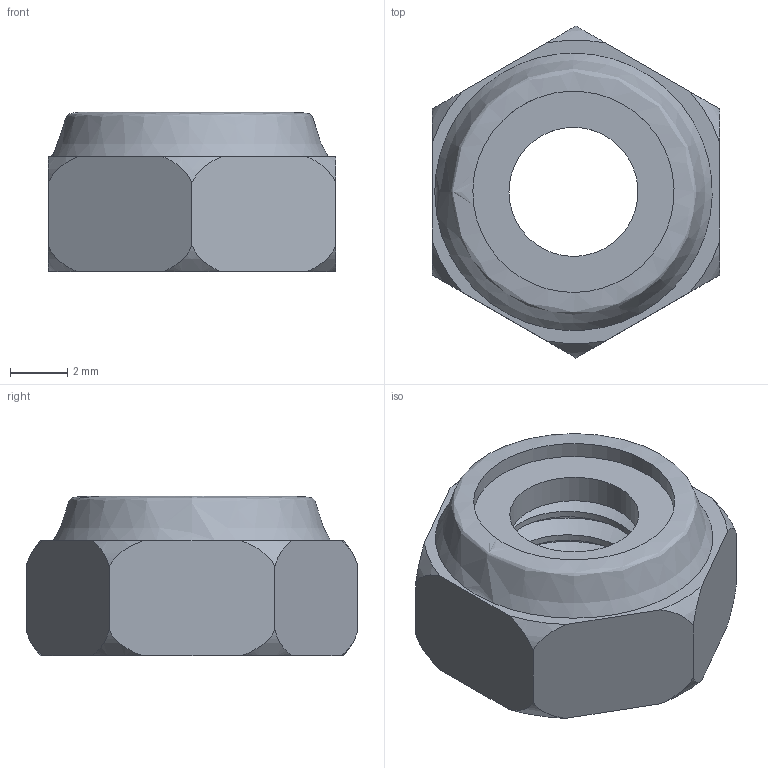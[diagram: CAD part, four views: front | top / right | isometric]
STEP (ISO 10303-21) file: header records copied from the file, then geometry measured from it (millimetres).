
FILE_DESCRIPTION ((), '1');
FILE_NAME ('F:\Energy Science\CAD Projects\Generator Research\Tesla_v1\Fittings\M6 Fittings\M6 Lock Nut\M6_Lock_Nut.stp', '2015-10-19T01:04:20', ('Unknown'), ('Unknown'), 'HarmonyWare STEP v1.7.11', 'HarmonyWare Translators', '');
FILE_SCHEMA (('CONFIG_CONTROL_DESIGN'));
Length unit declared in the file: millimetre
Products named in the file (2): product-name
Bounding box: 10 x 11.55 x 5.55 mm (x, y, z)
Volume: 314.6 mm3; surface area: 517.2 mm2
Topology: 2 solids, 2 shells, 35 faces, 89 edges, 59 vertices
Faces by surface type: bspline 35
Entity records: 10849 total; most frequent: CARTESIAN_POINT 10112, ORIENTED_EDGE 178, EDGE_CURVE 89, B_SPLINE_CURVE_WITH_KNOTS 80, VERTEX_POINT 59, EDGE_LOOP 40, FACE_OUTER_BOUND 35, ADVANCED_FACE 35
